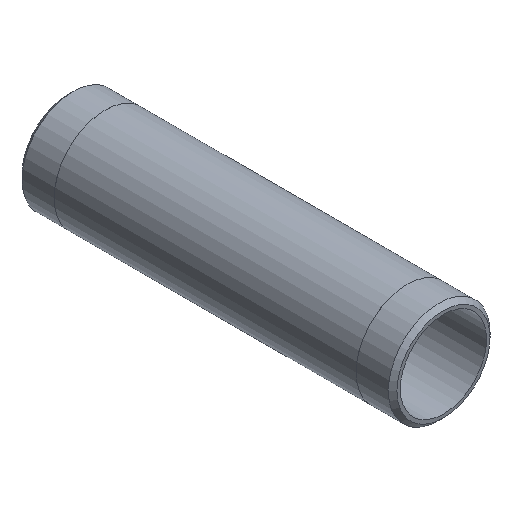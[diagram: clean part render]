
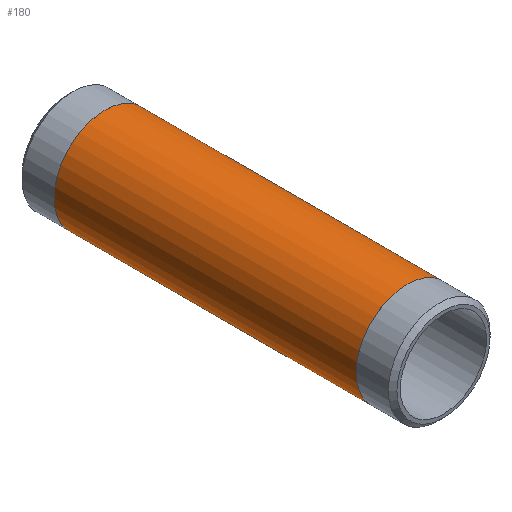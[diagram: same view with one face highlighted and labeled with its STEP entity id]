
A CAD part, isometric view. The second image highlights one B-rep face of the part: STEP entity #180.
In plain terms, the highlighted cylindrical face has radius 24.13 mm (diameter 48.26 mm), a full revolution.
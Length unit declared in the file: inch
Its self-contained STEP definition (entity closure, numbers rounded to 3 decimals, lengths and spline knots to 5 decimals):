
#25=CYLINDRICAL_SURFACE('',#220,0.95);
#34=FACE_OUTER_BOUND('',#47,.T.);
#47=EDGE_LOOP('',(#155,#156,#157,#158,#159,#160));
#55=LINE('',#338,#61);
#61=VECTOR('',#283,0.95);
#77=CIRCLE('',#218,0.95);
#78=CIRCLE('',#219,0.95);
#79=CIRCLE('',#221,0.95);
#80=CIRCLE('',#222,0.95);
#95=VERTEX_POINT('',#329);
#96=VERTEX_POINT('',#330);
#97=VERTEX_POINT('',#334);
#98=VERTEX_POINT('',#335);
#117=EDGE_CURVE('',#95,#96,#77,.T.);
#118=EDGE_CURVE('',#96,#95,#78,.T.);
#119=EDGE_CURVE('',#97,#98,#79,.T.);
#120=EDGE_CURVE('',#98,#97,#80,.T.);
#121=EDGE_CURVE('',#98,#96,#55,.T.);
#155=ORIENTED_EDGE('',*,*,#119,.F.);
#156=ORIENTED_EDGE('',*,*,#120,.F.);
#157=ORIENTED_EDGE('',*,*,#121,.T.);
#158=ORIENTED_EDGE('',*,*,#118,.T.);
#159=ORIENTED_EDGE('',*,*,#117,.T.);
#160=ORIENTED_EDGE('',*,*,#121,.F.);
#180=ADVANCED_FACE('',(#34),#25,.T.);
#218=AXIS2_PLACEMENT_3D('',#331,#273,#274);
#219=AXIS2_PLACEMENT_3D('',#332,#275,#276);
#220=AXIS2_PLACEMENT_3D('',#333,#277,#278);
#221=AXIS2_PLACEMENT_3D('',#336,#279,#280);
#222=AXIS2_PLACEMENT_3D('',#337,#281,#282);
#273=DIRECTION('center_axis',(0.,-1.,0.));
#274=DIRECTION('ref_axis',(1.,0.,0.));
#275=DIRECTION('center_axis',(0.,-1.,0.));
#276=DIRECTION('ref_axis',(1.,0.,0.));
#277=DIRECTION('center_axis',(0.,-1.,0.));
#278=DIRECTION('ref_axis',(0.,0.,-1.));
#279=DIRECTION('center_axis',(0.,-1.,0.));
#280=DIRECTION('ref_axis',(1.,0.,0.));
#281=DIRECTION('center_axis',(0.,-1.,0.));
#282=DIRECTION('ref_axis',(1.,0.,0.));
#283=DIRECTION('',(0.,1.,0.));
#329=CARTESIAN_POINT('',(0.,6.319,-0.95));
#330=CARTESIAN_POINT('',(0.,6.319,0.95));
#331=CARTESIAN_POINT('Origin',(0.,6.319,0.));
#332=CARTESIAN_POINT('Origin',(0.,6.319,0.));
#333=CARTESIAN_POINT('Origin',(0.,3.5,0.));
#334=CARTESIAN_POINT('',(0.,0.681,-0.95));
#335=CARTESIAN_POINT('',(0.,0.681,0.95));
#336=CARTESIAN_POINT('Origin',(0.,0.681,0.));
#337=CARTESIAN_POINT('Origin',(0.,0.681,0.));
#338=CARTESIAN_POINT('',(0.,3.5,0.95));
